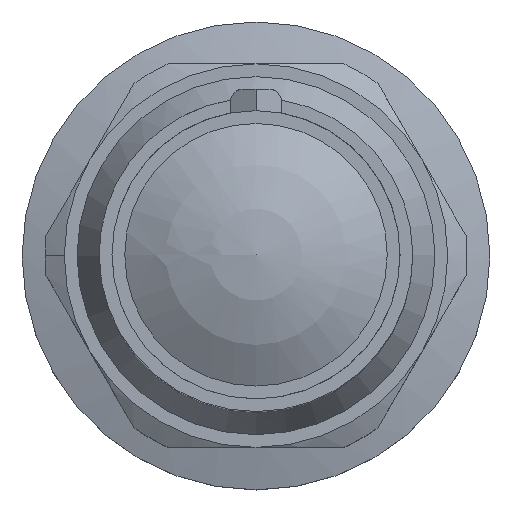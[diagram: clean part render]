
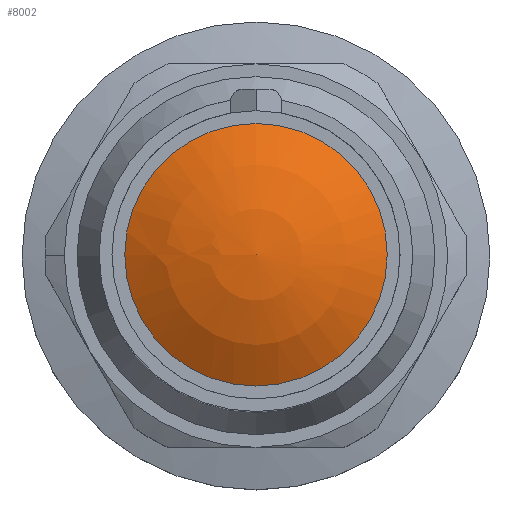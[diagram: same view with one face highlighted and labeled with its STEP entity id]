
A CAD part, top view. The second image highlights one B-rep face of the part: STEP entity #8002.
In plain terms, the highlighted spherical face has radius 19.072 mm.
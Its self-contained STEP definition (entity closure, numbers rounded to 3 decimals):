
#7967=CARTESIAN_POINT('',(0.,0.,41.928));
#7968=DIRECTION('',(0.,0.,1.));
#7969=DIRECTION('',(-1.,0.,0.));
#7970=AXIS2_PLACEMENT_3D('',#7967,#7968,#7969);
#7971=SPHERICAL_SURFACE('',#7970,19.072);
#7972=CARTESIAN_POINT('',(-0.,0.,61.));
#7973=VERTEX_POINT('',#7972);
#7974=CARTESIAN_POINT('',(-10.268,0.,58.));
#7975=VERTEX_POINT('',#7974);
#7976=CARTESIAN_POINT('',(0.,0.,41.928));
#7977=DIRECTION('',(-0.,-1.,-0.));
#7978=DIRECTION('',(-1.,0.,0.));
#7979=AXIS2_PLACEMENT_3D('',#7976,#7977,#7978);
#7980=CIRCLE('',#7979,19.072);
#7981=EDGE_CURVE('',#7973,#7975,#7980,.T.);
#7982=ORIENTED_EDGE('',*,*,#7981,.T.);
#7983=CARTESIAN_POINT('',(10.268,-0.,58.));
#7984=VERTEX_POINT('',#7983);
#7985=CARTESIAN_POINT('',(0.,0.,58.));
#7986=DIRECTION('',(0.,0.,1.));
#7987=DIRECTION('',(1.,0.,-0.));
#7988=AXIS2_PLACEMENT_3D('',#7985,#7986,#7987);
#7989=CIRCLE('',#7988,10.268);
#7990=EDGE_CURVE('',#7975,#7984,#7989,.T.);
#7991=ORIENTED_EDGE('',*,*,#7990,.T.);
#7992=CARTESIAN_POINT('',(0.,0.,58.));
#7993=DIRECTION('',(0.,0.,1.));
#7994=DIRECTION('',(1.,0.,-0.));
#7995=AXIS2_PLACEMENT_3D('',#7992,#7993,#7994);
#7996=CIRCLE('',#7995,10.268);
#7997=EDGE_CURVE('',#7984,#7975,#7996,.T.);
#7998=ORIENTED_EDGE('',*,*,#7997,.T.);
#7999=ORIENTED_EDGE('',*,*,#7981,.F.);
#8000=EDGE_LOOP('',(#7982,#7991,#7998,#7999));
#8001=FACE_BOUND('',#8000,.T.);
#8002=ADVANCED_FACE('',(#8001),#7971,.T.);
